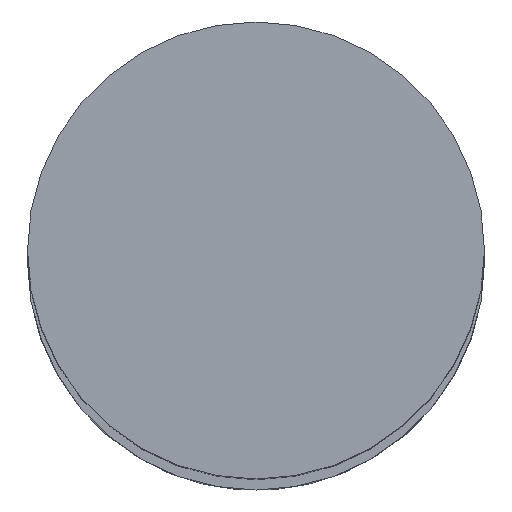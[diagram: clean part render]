
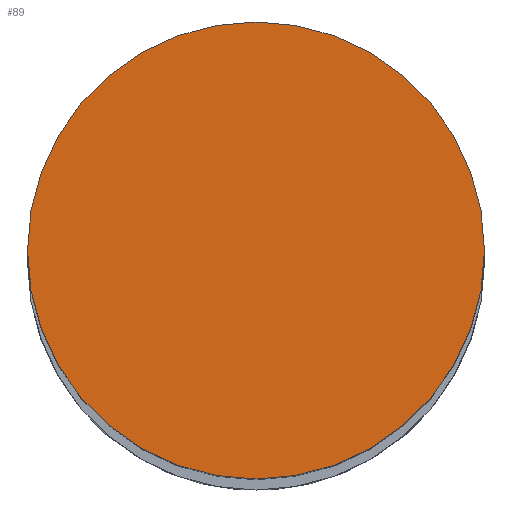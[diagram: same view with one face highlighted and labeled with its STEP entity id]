
A CAD part, top view. The second image highlights one B-rep face of the part: STEP entity #89.
In plain terms, the highlighted planar face has unit normal (0, 0, 1).
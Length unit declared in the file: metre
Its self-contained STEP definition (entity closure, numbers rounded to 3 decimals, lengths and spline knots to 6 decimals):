
#89=ADVANCED_FACE('0:129',(#177),#178,.T.);
#177=FACE_OUTER_BOUND('',#269,.T.);
#178=PLANE('',#270);
#269=EDGE_LOOP('',(#430,#431));
#270=AXIS2_PLACEMENT_3D('',#432,#433,#434);
#430=ORIENTED_EDGE('',*,*,#503,.F.);
#431=ORIENTED_EDGE('',*,*,#549,.F.);
#432=CARTESIAN_POINT('',(0.,0.,0.149));
#433=DIRECTION('',(0.0,0.0,1.0));
#434=DIRECTION('',(1.0,0.0,0.0));
#503=EDGE_CURVE('13:581',#587,#583,#589,.F.);
#549=EDGE_CURVE('',#583,#587,#656,.F.);
#583=VERTEX_POINT('',#707);
#587=VERTEX_POINT('',#712);
#589=CIRCLE('',#715,0.008);
#656=CIRCLE('',#796,0.008);
#707=CARTESIAN_POINT('',(0.00789,0.000133,0.149));
#712=CARTESIAN_POINT('',(-0.00811,0.000133,0.149));
#715=AXIS2_PLACEMENT_3D('',#856,#857,#858);
#796=AXIS2_PLACEMENT_3D('',#924,#925,#926);
#856=CARTESIAN_POINT('',(-0.00011,0.000133,0.149));
#857=DIRECTION('',(0.0,0.0,1.0));
#858=DIRECTION('',(1.0,0.0,0.0));
#924=CARTESIAN_POINT('',(-0.00011,0.000133,0.149));
#925=DIRECTION('',(0.0,0.0,1.0));
#926=DIRECTION('',(1.0,0.0,0.0));
